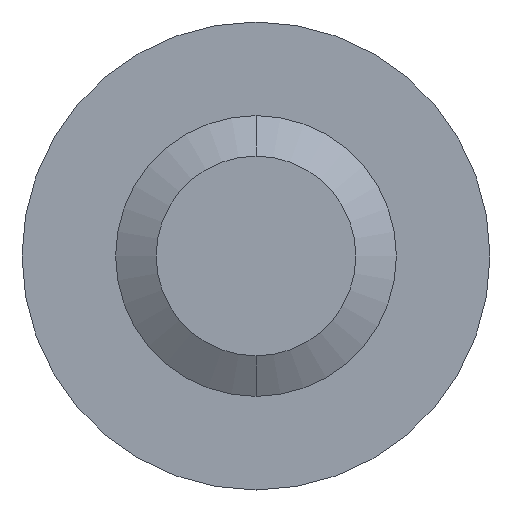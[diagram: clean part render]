
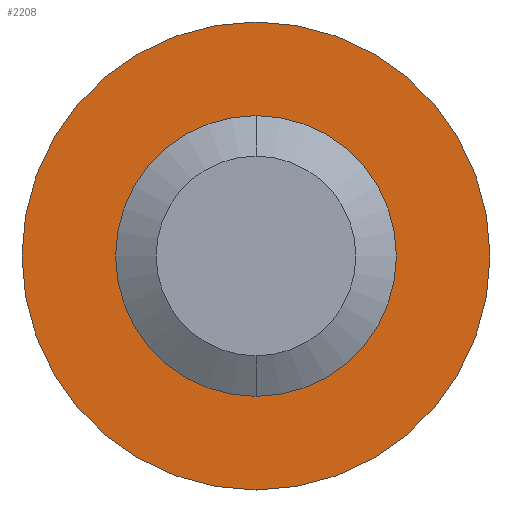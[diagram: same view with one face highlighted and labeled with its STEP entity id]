
A CAD part, front view. The second image highlights one B-rep face of the part: STEP entity #2208.
In plain terms, the highlighted planar face has unit normal (0, -1, 0).
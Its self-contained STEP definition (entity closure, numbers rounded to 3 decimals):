
#44 = VERTEX_POINT ( 'NONE', #614 ) ;
#94 = FACE_OUTER_BOUND ( 'NONE', #2282, .T. ) ;
#115 = CARTESIAN_POINT ( 'NONE',  ( 0., 25., 0. ) ) ;
#136 = ORIENTED_EDGE ( 'NONE', *, *, #1018, .F. ) ;
#139 = FACE_BOUND ( 'NONE', #2126, .T. ) ;
#230 = DIRECTION ( 'NONE',  ( 0., 1., 0. ) ) ;
#273 = AXIS2_PLACEMENT_3D ( 'NONE', #2419, #1119, #2167 ) ;
#533 = AXIS2_PLACEMENT_3D ( 'NONE', #1952, #946, #3216 ) ;
#614 = CARTESIAN_POINT ( 'NONE',  ( 0., 25., -3. ) ) ;
#928 = EDGE_CURVE ( 'NONE', #1547, #44, #2025, .T. ) ;
#946 = DIRECTION ( 'NONE',  ( 0., 1., 0. ) ) ;
#1018 = EDGE_CURVE ( 'NONE', #1245, #2836, #1970, .T. ) ;
#1020 = CARTESIAN_POINT ( 'NONE',  ( 0., 25., 0. ) ) ;
#1108 = DIRECTION ( 'NONE',  ( 0., 1., 0. ) ) ;
#1119 = DIRECTION ( 'NONE',  ( 0., 1., 0. ) ) ;
#1197 = ORIENTED_EDGE ( 'NONE', *, *, #2163, .F. ) ;
#1242 = CIRCLE ( 'NONE', #3088, 3. ) ;
#1245 = VERTEX_POINT ( 'NONE', #1703 ) ;
#1336 = AXIS2_PLACEMENT_3D ( 'NONE', #2157, #1108, #3129 ) ;
#1390 = PLANE ( 'NONE',  #1336 ) ;
#1547 = VERTEX_POINT ( 'NONE', #2631 ) ;
#1611 = ORIENTED_EDGE ( 'NONE', *, *, #928, .T. ) ;
#1630 = ORIENTED_EDGE ( 'NONE', *, *, #2526, .T. ) ;
#1703 = CARTESIAN_POINT ( 'NONE',  ( 0., 25., -5. ) ) ;
#1952 = CARTESIAN_POINT ( 'NONE',  ( 0., 25., 0. ) ) ;
#1970 = CIRCLE ( 'NONE', #533, 5. ) ;
#2025 = CIRCLE ( 'NONE', #273, 3. ) ;
#2126 = EDGE_LOOP ( 'NONE', ( #1630, #1611 ) ) ;
#2141 = DIRECTION ( 'NONE',  ( 0., 0., 1. ) ) ;
#2157 = CARTESIAN_POINT ( 'NONE',  ( 0., 25., 0. ) ) ;
#2163 = EDGE_CURVE ( 'NONE', #2836, #1245, #2296, .T. ) ;
#2167 = DIRECTION ( 'NONE',  ( 0., 0., 1. ) ) ;
#2208 = ADVANCED_FACE ( 'NONE', ( #94, #139 ), #1390, .F. ) ;
#2282 = EDGE_LOOP ( 'NONE', ( #136, #1197 ) ) ;
#2296 = CIRCLE ( 'NONE', #2344, 5. ) ;
#2344 = AXIS2_PLACEMENT_3D ( 'NONE', #115, #3170, #2141 ) ;
#2419 = CARTESIAN_POINT ( 'NONE',  ( 0., 25., 0. ) ) ;
#2526 = EDGE_CURVE ( 'NONE', #44, #1547, #1242, .T. ) ;
#2631 = CARTESIAN_POINT ( 'NONE',  ( 0., 25., 3. ) ) ;
#2836 = VERTEX_POINT ( 'NONE', #3163 ) ;
#3010 = DIRECTION ( 'NONE',  ( 0., 0., 1. ) ) ;
#3088 = AXIS2_PLACEMENT_3D ( 'NONE', #1020, #230, #3010 ) ;
#3129 = DIRECTION ( 'NONE',  ( 0., 0., 1. ) ) ;
#3163 = CARTESIAN_POINT ( 'NONE',  ( 0., 25., 5. ) ) ;
#3170 = DIRECTION ( 'NONE',  ( 0., 1., 0. ) ) ;
#3216 = DIRECTION ( 'NONE',  ( 0., 0., 1. ) ) ;
